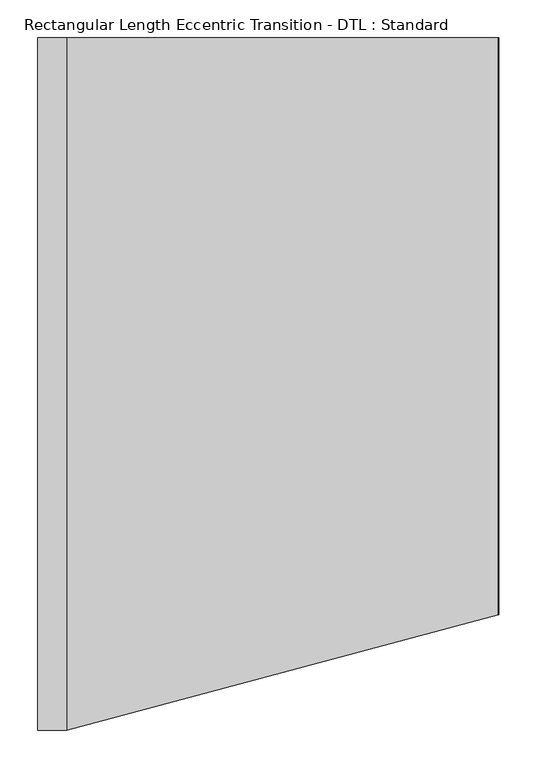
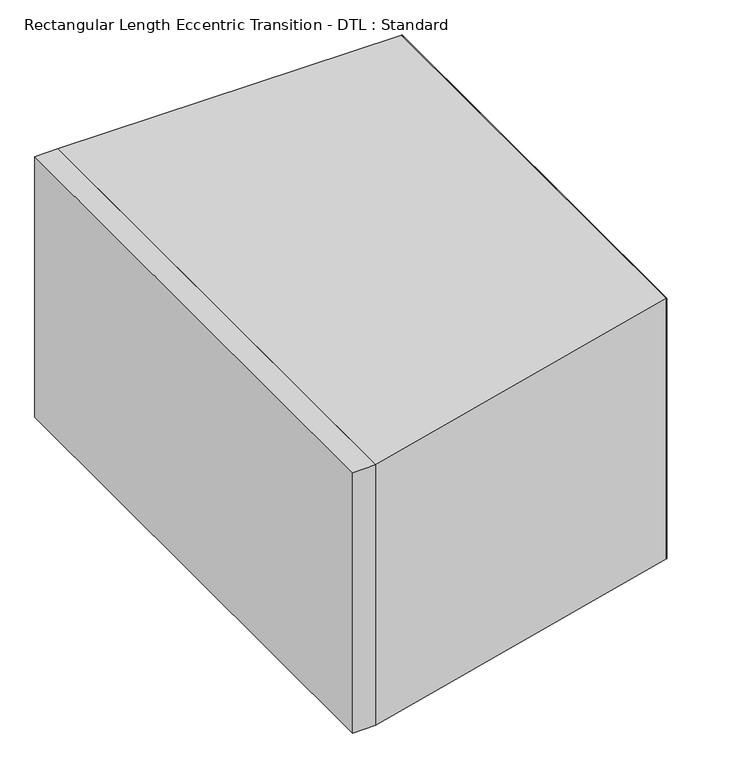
"""IFC4 building model written with IfcOpenShell, lengths in millimetres: duct fitting geometry, Rectangular Length Eccentric Transition - DTL : Standard."""

from ifc_helpers import new_model, si_unit, frame, origin, place, context, project, spatial, polyline, outline, extrude, source, transform, mapped, element, save


def rectangular_length_eccentric_transition_dtl_standard_12de035d(model_context):
    return source(origin(), model_context, "Body", "SweptSolid", [
        extrude(outline(polyline([(609.6, 457.2), (609.6, -304.8), (608.80625, -304.8), (608.80625, 457.2), (609.6, 457.2)])), frame((0.0, 0.0, -228.6), z_axis=(0.0, 0.0, 1.0), x_axis=(1.0, 0.0, 0.0)), (0.0, 0.0, 1.0), 457.2),
        extrude(outline(polyline([(38.1, 457.2), (38.1, -457.2), (0.0, -457.2), (0.0, 457.2), (38.1, 457.2)])), frame((0.0, 0.0, -228.6), z_axis=(0.0, 0.0, 1.0), x_axis=(1.0, 0.0, 0.0)), (0.0, 0.0, 1.0), 457.2),
        extrude(outline(polyline([(608.80625, 457.2), (608.80625, -304.8), (38.1, -457.2), (38.1, 457.2), (608.80625, 457.2)])), frame((0.0, 0.0, -228.6), z_axis=(0.0, 0.0, 1.0), x_axis=(1.0, 0.0, 0.0)), (0.0, 0.0, 1.0), 457.2),
    ])


if __name__ == "__main__":
    model = new_model("IFC4")
    model_context = context("Model", 3, world=origin())
    ifc_project = project(units=[si_unit("LENGTHUNIT", "METRE", prefix="MILLI")], contexts=[model_context])
    site = spatial("IfcSite", under=ifc_project)
    building = spatial("IfcBuilding", under=site)
    placement = place(None, origin())
    rectangular_length_eccentric_transition_dtl_standard_shape = rectangular_length_eccentric_transition_dtl_standard_12de035d(model_context)
    element("IfcDuctFitting", 1, ObjectType="Rectangular Length Eccentric Transition - DTL : Standard", at=placement, inside=building, context=model_context, shape_type="MappedRepresentation", body=[
        mapped(rectangular_length_eccentric_transition_dtl_standard_shape, transform((0.0, 0.0, 0.0), x_axis=(1.0, 0.0, 0.0), y_axis=(0.0, 1.0, 0.0), z_axis=(0.0, 0.0, 1.0))),
    ])
    save(model, "model.ifc")
